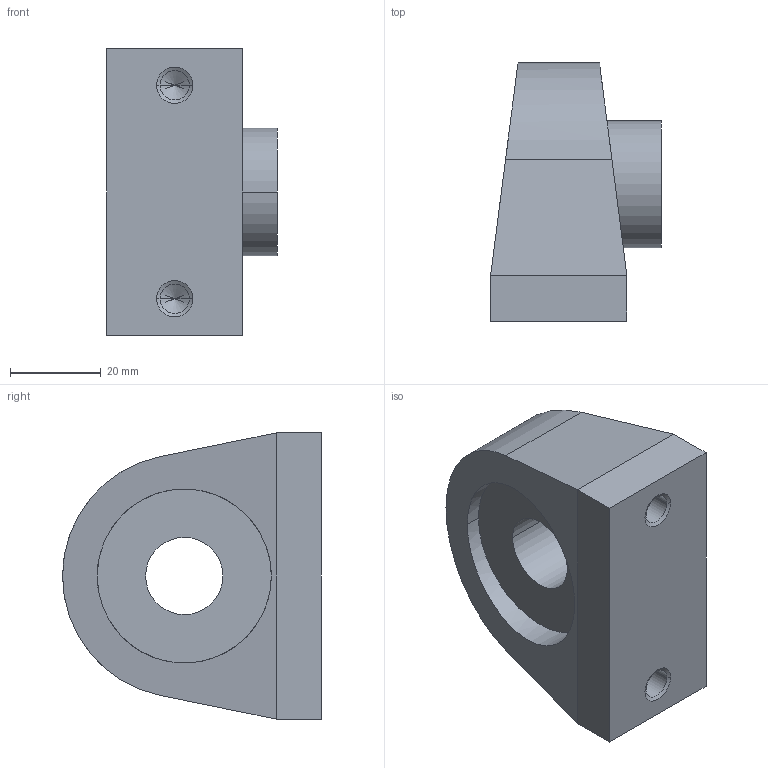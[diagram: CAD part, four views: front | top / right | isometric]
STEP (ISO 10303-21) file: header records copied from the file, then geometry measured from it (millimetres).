
FILE_DESCRIPTION(('SolidDesigner STEP Export'),'2;1');
FILE_NAME('Stehlager_PSHE_17.stp','2002-07-16T 9:03:25',(''),(''),'SolidDesigner STEP processor Version: 9.0 (March 2001)for AP214(CD)(Solid Model)','CoCreate SolidDesigner: 11.00 12-Dec-2001(C) CoCreate Software GmbH','');
FILE_SCHEMA(('AUTOMOTIVE_DESIGN_CC2 {1 2 10303 214 -1 1 5 1}'));
Length unit declared in the file: millimetre
Products named in the file (1): Stehlager_PSHE_17
Bounding box: 37.6 x 57 x 63 mm (x, y, z)
Volume: 64805.3 mm3; surface area: 15860.9 mm2
Topology: 1 solids, 1 shells, 37 faces, 80 edges, 46 vertices
Faces by surface type: cylinder 17, plane 12, cone 8
Entity records: 922 total; most frequent: ORIENTED_EDGE 152, CARTESIAN_POINT 132, DIRECTION 130, EDGE_CURVE 76, VERTEX_POINT 46, AXIS2_PLACEMENT_3D 44, EDGE_LOOP 44, VECTOR 42
